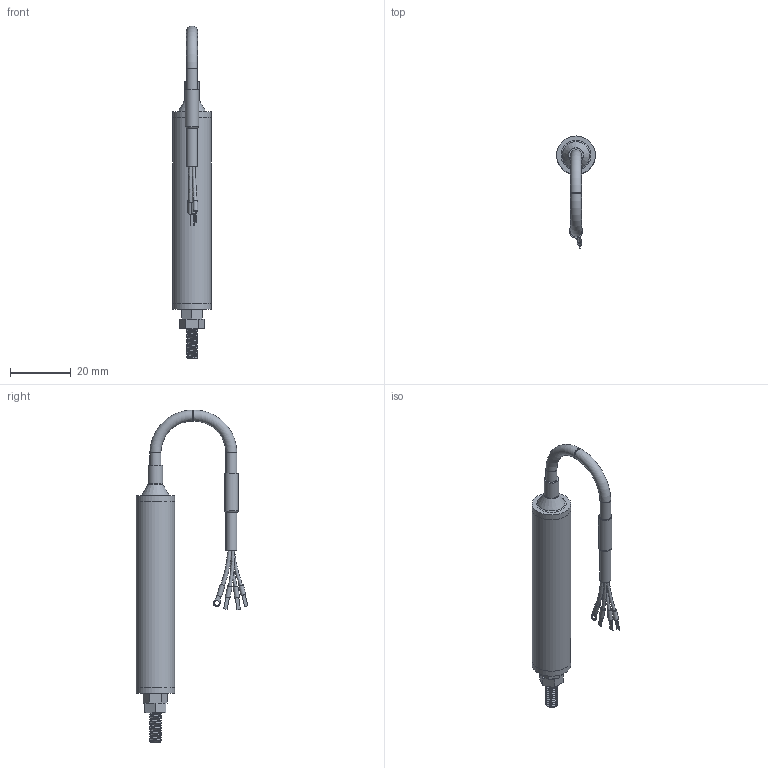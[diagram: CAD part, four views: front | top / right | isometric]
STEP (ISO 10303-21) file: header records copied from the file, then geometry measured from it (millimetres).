
FILE_DESCRIPTION(/* description */ (''),/* implementation_level */ '2;1');
FILE_NAME(/* name */ 'LPPS-12-010-A Assembly (wrapped).step',/* time_stamp */ '2023-10-10T09:58:59-04:00',/* author */ ('TSC_Grant'),/* organization */ (''),/* preprocessor_version */ 'ST-DEVELOPER v19.2',/* originating_system */ 'Autodesk Inventor 2024',/* authorisation */ '');
FILE_SCHEMA (('AUTOMOTIVE_DESIGN { 1 0 10303 214 3 1 1 }'));
Length unit declared in the file: inch
Products named in the file (4): LPPS-12-010-A Assembly (wrapped); LPPS-12-010-A Body (wrapped); LPPS-12-010-A Assembly_Simplify_1; Wire
Assembly tree (3 placements, depth 2):
  LPPS-12-010-A Assembly (wrapped)
    LPPS-12-010-A Body (wrapped)
    LPPS-12-010-A Assembly_Simplify_1
    Wire
Bounding box: 12.7 x 36.8 x 109.24 mm (x, y, z)
Volume: 9071.8 mm3; surface area: 6289.6 mm2
Topology: 13 solids, 13 shells, 133 faces, 286 edges, 190 vertices
Faces by surface type: plane 75, cylinder 44, bspline 8, torus 5, cone 1
Full cylindrical faces by diameter (mm): 1.016 x3, 1.27 x1, 1.524 x3, 1.651 x2, 3.632 x6, 3.937 x8, 4.191 x1, 4.445 x1, 4.826 x1, 12.7 x3
Entity records: 5477 total; most frequent: CARTESIAN_POINT 2222, DIRECTION 619, ORIENTED_EDGE 572, EDGE_CURVE 286, AXIS2_PLACEMENT_3D 236, VERTEX_POINT 190, EDGE_LOOP 150, LINE 147
